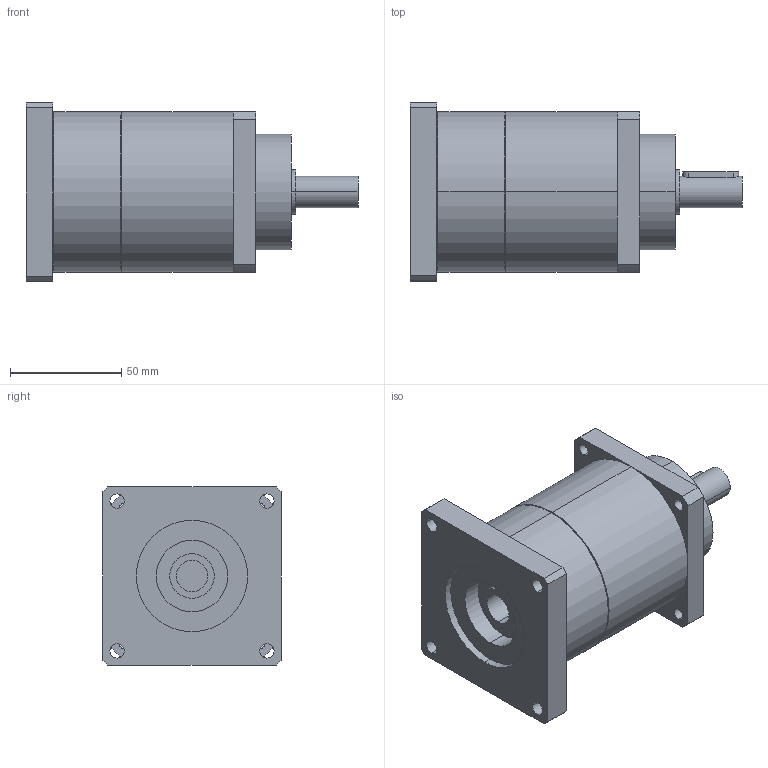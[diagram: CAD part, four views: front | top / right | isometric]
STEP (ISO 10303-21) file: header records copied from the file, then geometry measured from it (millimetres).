
FILE_DESCRIPTION(('CoCreate Modeling STEP Export'),'2;1');
FILE_NAME('GPT75_ig-9-12-16-20-25-28-35-40-50-70-100_14_B5T_14_P27.stp','2014-08-27T13:38:11',(''),(''),'CoCreate Modeling STEP processor for AP214 (Solid Model)','CoCreate Modeling 16.00C 25-Feb-2009 (C) Parametric Technology GmbH','');
FILE_SCHEMA(('AUTOMOTIVE_DESIGN { 1 0 10303 214 1 1 1 1 }'));
Length unit declared in the file: millimetre
Products named in the file (2): GPT75_ig-9-12-16-20-25-28-35-40-50-70-100_14_B5T_14_P27
Assembly tree (1 placements, depth 2):
  GPT75_ig-9-12-16-20-25-28-35-40-50-70-100_14_B5T_14_P27
    GPT75_ig-9-12-16-20-25-28-35-40-50-70-100_14_B5T_14_P27
Bounding box: 149 x 80 x 80 mm (x, y, z)
Volume: 476880.8 mm3; surface area: 48708.3 mm2
Topology: 1 solids, 1 shells, 77 faces, 191 edges, 126 vertices
Faces by surface type: cylinder 46, plane 27, cone 4
Entity records: 2469 total; most frequent: CARTESIAN_POINT 716, ORIENTED_EDGE 382, DIRECTION 320, EDGE_CURVE 191, VERTEX_POINT 126, AXIS2_PLACEMENT_3D 118, EDGE_LOOP 103, VECTOR 84
